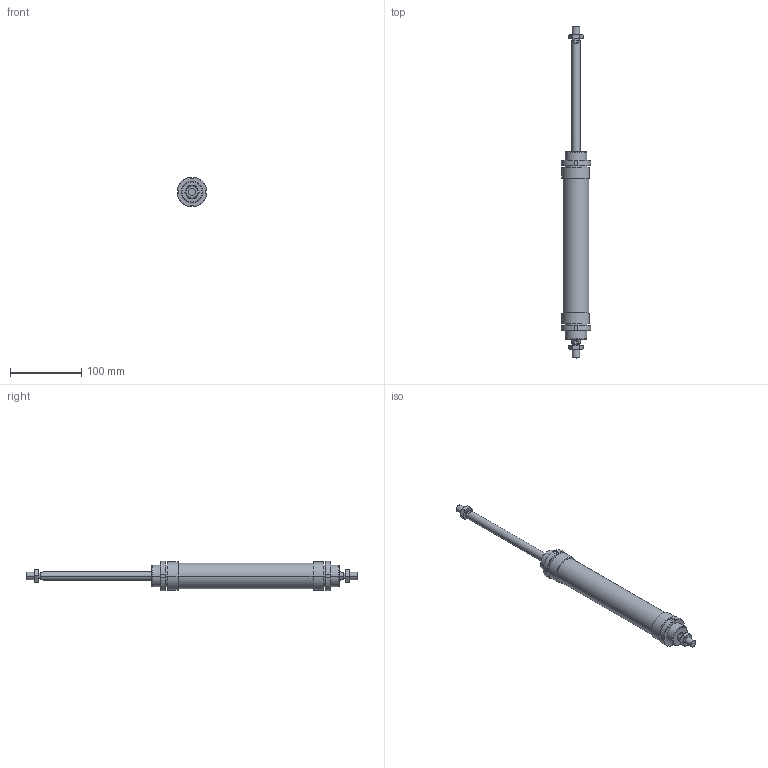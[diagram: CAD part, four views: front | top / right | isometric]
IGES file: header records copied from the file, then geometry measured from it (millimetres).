
Global section: file name: No Iges File Name specified; native system: AutoDesk Inventor R6.0; preprocessor: AutoDesk Inventor Iges Exporter R6.0; author: No Author specified; organization: No Organization specified; date: 20030403.072643; units: millimetre
Bounding box: 41.7 x 465 x 41.7 mm (x, y, z)
Volume: 294244.6 mm3; surface area: 67878.4 mm2
Topology: 6 solids, 6 shells, 182 faces, 424 edges, 264 vertices
Faces by surface type: plane 66, cone 52, bspline 30, cylinder 28, revolution 6
